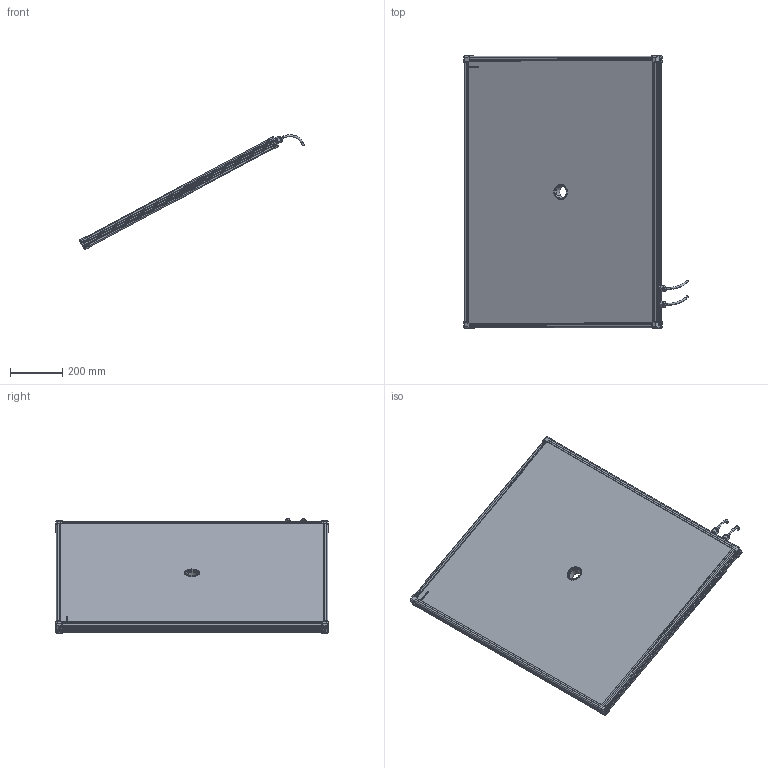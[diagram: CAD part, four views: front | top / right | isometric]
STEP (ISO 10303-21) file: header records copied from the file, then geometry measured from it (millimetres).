
FILE_DESCRIPTION (( 'STEP AP214' ), '1' );
FILE_NAME ('EFFI-FD-800-1000-ZZZ-2M12P.STEP', '2021-06-21T10:21:13', ( '' ), ( '' ), 'SwSTEP 2.0', 'SolidWorks 2021', '' );
FILE_SCHEMA (( 'AUTOMOTIVE_DESIGN' ));
Length unit declared in the file: millimetre
Products named in the file (13): EFFI-FD-800-1000-ZZZ-2M12P; Pièce13^EFFI-FD-XXX-YYY-ZZZ (2 connecteurs) M12 POWER Ø50; profile Y_PERCE; 001040; petite joue + vis; 000629; 000590; Assemblage Ø50; 001039; profile X_PERCE; petite joue; M12 power
Assembly tree (20 placements, depth 3):
  EFFI-FD-800-1000-ZZZ-2M12P
    profile X_PERCE  x2
    profile Y_PERCE
    profile Y_PERCE
    Pièce13^EFFI-FD-XXX-YYY-ZZZ (2 connecteurs) M12 POWER Ø50
    petite joue + vis  x4
      petite joue
      000629
    M12 power  x2
    Assemblage Ø50
      001039
      001040
      000590  x3
Bounding box: 856.07 x 1039 x 438.16 mm (x, y, z)
Volume: 30274107.7 mm3; surface area: 2316911.8 mm2
Topology: 22 solids, 28 shells, 4002 faces, 10650 edges, 6994 vertices
Faces by surface type: plane 2479, cylinder 737, bspline 591, cone 154, torus 33, sphere 8
Entity records: 56584 total; most frequent: CARTESIAN_POINT 22742, ORIENTED_EDGE 7114, DIRECTION 5810, EDGE_CURVE 3559, LINE 2478, VECTOR 2478, VERTEX_POINT 2341, AXIS2_PLACEMENT_3D 1666
